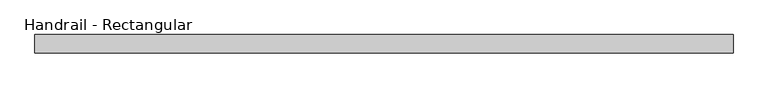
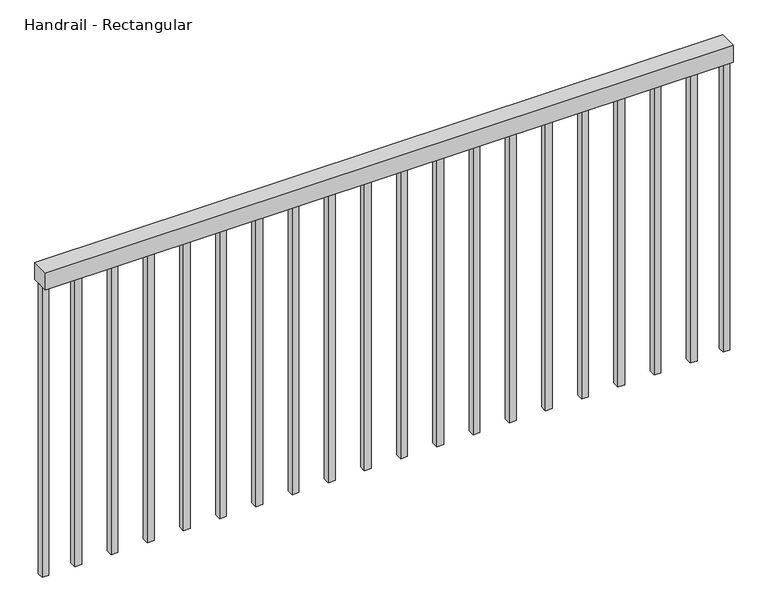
"""IFC4 building model written with IfcOpenShell, lengths in millimetres: railing geometry, Handrail - Rectangular."""

from ifc_helpers import new_model, si_unit, frame, origin, origin_with_axes, place, context, project, spatial, polyline, outline, extrude, source, transform, mapped, element, save


def handrail_rectangular_88550297(model_context):
    return source(origin(), model_context, "Body", "SweptSolid", [
        extrude(outline(polyline([(-4516.8274687, 7052.7758812), (-4516.8274687, 7001.9758812), (-6447.2274687, 7001.9758812), (-6447.2274687, 7052.7758812), (-4516.8274687, 7052.7758812)])), frame((0.0, 0.0, 863.6), z_axis=(0.0, 0.0, 1.0), x_axis=(1.0, 0.0, 0.0)), (0.0, 0.0, 1.0), 50.8),
        extrude(outline(polyline([(-6336.1024687, 7036.9008812), (-6336.1024687, 7017.8508812), (-6355.1524687, 7017.8508812), (-6355.1524687, 7036.9008812), (-6336.1024687, 7036.9008812)])), origin_with_axes(), (0.0, 0.0, 1.0), 863.6),
        extrude(outline(polyline([(-6234.5024687, 7036.9008812), (-6234.5024687, 7017.8508812), (-6253.5524687, 7017.8508812), (-6253.5524687, 7036.9008812), (-6234.5024687, 7036.9008812)])), origin_with_axes(), (0.0, 0.0, 1.0), 863.6),
        extrude(outline(polyline([(-6132.9024687, 7036.9008812), (-6132.9024687, 7017.8508812), (-6151.9524687, 7017.8508812), (-6151.9524687, 7036.9008812), (-6132.9024687, 7036.9008812)])), origin_with_axes(), (0.0, 0.0, 1.0), 863.6),
        extrude(outline(polyline([(-6031.3024687, 7036.9008812), (-6031.3024687, 7017.8508812), (-6050.3524687, 7017.8508812), (-6050.3524687, 7036.9008812), (-6031.3024687, 7036.9008812)])), origin_with_axes(), (0.0, 0.0, 1.0), 863.6),
        extrude(outline(polyline([(-5929.7024687, 7036.9008812), (-5929.7024687, 7017.8508812), (-5948.7524687, 7017.8508812), (-5948.7524687, 7036.9008812), (-5929.7024687, 7036.9008812)])), origin_with_axes(), (0.0, 0.0, 1.0), 863.6),
        extrude(outline(polyline([(-5828.1024687, 7036.9008812), (-5828.1024687, 7017.8508812), (-5847.1524687, 7017.8508812), (-5847.1524687, 7036.9008812), (-5828.1024687, 7036.9008812)])), origin_with_axes(), (0.0, 0.0, 1.0), 863.6),
        extrude(outline(polyline([(-5726.5024687, 7036.9008812), (-5726.5024687, 7017.8508812), (-5745.5524687, 7017.8508812), (-5745.5524687, 7036.9008812), (-5726.5024687, 7036.9008812)])), origin_with_axes(), (0.0, 0.0, 1.0), 863.6),
        extrude(outline(polyline([(-5624.9024687, 7036.9008812), (-5624.9024687, 7017.8508812), (-5643.9524687, 7017.8508812), (-5643.9524687, 7036.9008812), (-5624.9024687, 7036.9008812)])), origin_with_axes(), (0.0, 0.0, 1.0), 863.6),
        extrude(outline(polyline([(-5523.3024687, 7036.9008812), (-5523.3024687, 7017.8508812), (-5542.3524687, 7017.8508812), (-5542.3524687, 7036.9008812), (-5523.3024687, 7036.9008812)])), origin_with_axes(), (0.0, 0.0, 1.0), 863.6),
        extrude(outline(polyline([(-5421.7024687, 7036.9008812), (-5421.7024687, 7017.8508812), (-5440.7524687, 7017.8508812), (-5440.7524687, 7036.9008812), (-5421.7024687, 7036.9008812)])), origin_with_axes(), (0.0, 0.0, 1.0), 863.6),
        extrude(outline(polyline([(-5320.1024687, 7036.9008812), (-5320.1024687, 7017.8508812), (-5339.1524687, 7017.8508812), (-5339.1524687, 7036.9008812), (-5320.1024687, 7036.9008812)])), origin_with_axes(), (0.0, 0.0, 1.0), 863.6),
        extrude(outline(polyline([(-5218.5024687, 7036.9008812), (-5218.5024687, 7017.8508812), (-5237.5524687, 7017.8508812), (-5237.5524687, 7036.9008812), (-5218.5024687, 7036.9008812)])), origin_with_axes(), (0.0, 0.0, 1.0), 863.6),
        extrude(outline(polyline([(-5116.9024687, 7036.9008812), (-5116.9024687, 7017.8508812), (-5135.9524687, 7017.8508812), (-5135.9524687, 7036.9008812), (-5116.9024687, 7036.9008812)])), origin_with_axes(), (0.0, 0.0, 1.0), 863.6),
        extrude(outline(polyline([(-5015.3024687, 7036.9008812), (-5015.3024687, 7017.8508812), (-5034.3524687, 7017.8508812), (-5034.3524687, 7036.9008812), (-5015.3024687, 7036.9008812)])), origin_with_axes(), (0.0, 0.0, 1.0), 863.6),
        extrude(outline(polyline([(-4913.7024687, 7036.9008812), (-4913.7024687, 7017.8508812), (-4932.7524687, 7017.8508812), (-4932.7524687, 7036.9008812), (-4913.7024687, 7036.9008812)])), origin_with_axes(), (0.0, 0.0, 1.0), 863.6),
        extrude(outline(polyline([(-4812.1024687, 7036.9008812), (-4812.1024687, 7017.8508812), (-4831.1524687, 7017.8508812), (-4831.1524687, 7036.9008812), (-4812.1024687, 7036.9008812)])), origin_with_axes(), (0.0, 0.0, 1.0), 863.6),
        extrude(outline(polyline([(-4710.5024687, 7036.9008812), (-4710.5024687, 7017.8508812), (-4729.5524687, 7017.8508812), (-4729.5524687, 7036.9008812), (-4710.5024687, 7036.9008812)])), origin_with_axes(), (0.0, 0.0, 1.0), 863.6),
        extrude(outline(polyline([(-4608.9024687, 7036.9008812), (-4608.9024687, 7017.8508812), (-4627.9524687, 7017.8508812), (-4627.9524687, 7036.9008812), (-4608.9024687, 7036.9008812)])), origin_with_axes(), (0.0, 0.0, 1.0), 863.6),
        extrude(outline(polyline([(-6428.1774687, 7036.9008812), (-6428.1774687, 7017.8508812), (-6447.2274687, 7017.8508812), (-6447.2274687, 7036.9008812), (-6428.1774687, 7036.9008812)])), origin_with_axes(), (0.0, 0.0, 1.0), 863.6),
        extrude(outline(polyline([(-4516.8274687, 7036.9008812), (-4516.8274687, 7017.8508812), (-4535.8774687, 7017.8508812), (-4535.8774687, 7036.9008812), (-4516.8274687, 7036.9008812)])), origin_with_axes(), (0.0, 0.0, 1.0), 863.6),
    ])


if __name__ == "__main__":
    model = new_model("IFC4")
    model_context = context("Model", 3, world=origin())
    ifc_project = project(units=[si_unit("LENGTHUNIT", "METRE", prefix="MILLI")], contexts=[model_context])
    site = spatial("IfcSite", under=ifc_project)
    building = spatial("IfcBuilding", under=site)
    placement = place(None, origin())
    handrail_rectangular_shape = handrail_rectangular_88550297(model_context)
    element("IfcRailing", 1, ObjectType="Handrail - Rectangular", at=placement, inside=building, context=model_context, shape_type="MappedRepresentation", body=[
        mapped(handrail_rectangular_shape, transform((0.0, 0.0, 0.0), x_axis=(1.0, 0.0, 0.0), y_axis=(0.0, 1.0, 0.0), z_axis=(0.0, 0.0, 1.0))),
    ])
    save(model, "model.ifc")
